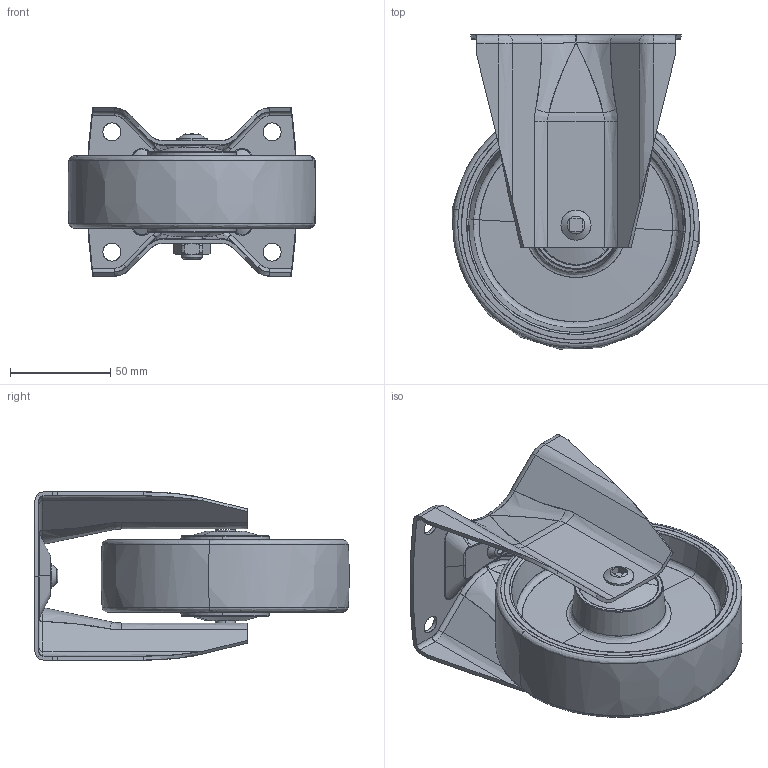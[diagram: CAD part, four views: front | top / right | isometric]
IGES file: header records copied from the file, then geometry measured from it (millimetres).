
Start section: SolidWorks IGES file using analytic representation for surfaces
Global section: file name: S:\Tyokansio\VL\LK\400666_IGES.IGS; native system: SolidWorks 2011; preprocessor: SolidWorks 2011; author: VilleLa; date: 110829.133054; units: millimetre
Bounding box: 123.71 x 156.85 x 84 mm (x, y, z)
Surface area: 134232.8 mm2 (no closed solid volume)
Topology: 0 solids, 0 shells, 420 faces, 7308 edges, 7308 vertices
Faces by surface type: bspline 265, revolution 155
